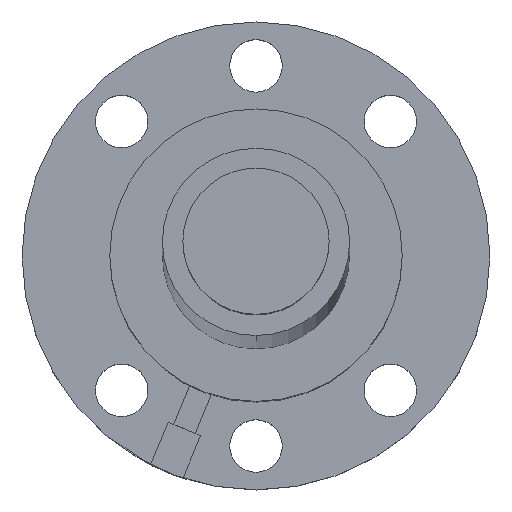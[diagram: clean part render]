
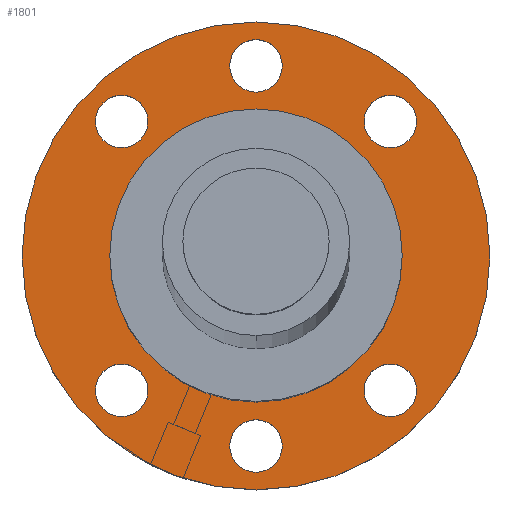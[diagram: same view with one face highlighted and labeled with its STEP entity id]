
A CAD part, top view. The second image highlights one B-rep face of the part: STEP entity #1801.
In plain terms, the highlighted planar face has unit normal (0, 0, 1).
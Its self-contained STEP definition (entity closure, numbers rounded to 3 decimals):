
#1296=CARTESIAN_POINT('',(0.,0.,12.));
#1297=DIRECTION('',(0.,0.,1.));
#1298=DIRECTION('',(1.,0.,0.));
#1299=AXIS2_PLACEMENT_3D('',#1296,#1297,#1298);
#1301=CARTESIAN_POINT('',(0.,0.,12.));
#1302=DIRECTION('',(0.,0.,1.));
#1303=DIRECTION('',(-1.,0.,0.));
#1304=AXIS2_PLACEMENT_3D('',#1301,#1302,#1303);
#1306=CARTESIAN_POINT('',(0.,0.,12.));
#1307=DIRECTION('',(0.,0.,-1.));
#1308=DIRECTION('',(1.,0.,0.));
#1309=AXIS2_PLACEMENT_3D('',#1306,#1307,#1308);
#1311=CARTESIAN_POINT('',(0.,0.,12.));
#1312=DIRECTION('',(0.,0.,-1.));
#1313=DIRECTION('',(-1.,0.,0.));
#1314=AXIS2_PLACEMENT_3D('',#1311,#1312,#1313);
#1316=CARTESIAN_POINT('',(0.,32.5,12.));
#1317=DIRECTION('',(0.,0.,-1.));
#1318=DIRECTION('',(1.,0.,0.));
#1319=AXIS2_PLACEMENT_3D('',#1316,#1317,#1318);
#1321=CARTESIAN_POINT('',(0.,32.5,12.));
#1322=DIRECTION('',(0.,0.,-1.));
#1323=DIRECTION('',(-1.,0.,0.));
#1324=AXIS2_PLACEMENT_3D('',#1321,#1322,#1323);
#1326=CARTESIAN_POINT('',(22.981,22.981,12.));
#1327=DIRECTION('',(0.,0.,-1.));
#1328=DIRECTION('',(-1.,0.,0.));
#1329=AXIS2_PLACEMENT_3D('',#1326,#1327,#1328);
#1331=CARTESIAN_POINT('',(22.981,22.981,12.));
#1332=DIRECTION('',(0.,0.,-1.));
#1333=DIRECTION('',(1.,0.,0.));
#1334=AXIS2_PLACEMENT_3D('',#1331,#1332,#1333);
#1336=CARTESIAN_POINT('',(-22.981,-22.981,12.));
#1337=DIRECTION('',(0.,0.,-1.));
#1338=DIRECTION('',(1.,0.,0.));
#1339=AXIS2_PLACEMENT_3D('',#1336,#1337,#1338);
#1341=CARTESIAN_POINT('',(-22.981,-22.981,12.));
#1342=DIRECTION('',(0.,0.,-1.));
#1343=DIRECTION('',(-1.,0.,0.));
#1344=AXIS2_PLACEMENT_3D('',#1341,#1342,#1343);
#1346=CARTESIAN_POINT('',(-22.981,22.981,12.));
#1347=DIRECTION('',(0.,0.,-1.));
#1348=DIRECTION('',(1.,0.,0.));
#1349=AXIS2_PLACEMENT_3D('',#1346,#1347,#1348);
#1351=CARTESIAN_POINT('',(-22.981,22.981,12.));
#1352=DIRECTION('',(0.,0.,-1.));
#1353=DIRECTION('',(-1.,0.,0.));
#1354=AXIS2_PLACEMENT_3D('',#1351,#1352,#1353);
#1356=CARTESIAN_POINT('',(22.981,-22.981,12.));
#1357=DIRECTION('',(0.,0.,-1.));
#1358=DIRECTION('',(-1.,0.,0.));
#1359=AXIS2_PLACEMENT_3D('',#1356,#1357,#1358);
#1361=CARTESIAN_POINT('',(22.981,-22.981,12.));
#1362=DIRECTION('',(0.,0.,-1.));
#1363=DIRECTION('',(1.,0.,0.));
#1364=AXIS2_PLACEMENT_3D('',#1361,#1362,#1363);
#1366=CARTESIAN_POINT('',(0.,-32.5,12.));
#1367=DIRECTION('',(0.,0.,-1.));
#1368=DIRECTION('',(1.,0.,0.));
#1369=AXIS2_PLACEMENT_3D('',#1366,#1367,#1368);
#1371=CARTESIAN_POINT('',(0.,-32.5,12.));
#1372=DIRECTION('',(0.,0.,-1.));
#1373=DIRECTION('',(-1.,0.,0.));
#1374=AXIS2_PLACEMENT_3D('',#1371,#1372,#1373);
#1546=CARTESIAN_POINT('',(40.,0.,12.));
#1548=VERTEX_POINT('',#1546);
#1550=CARTESIAN_POINT('',(-40.,0.,12.));
#1552=VERTEX_POINT('',#1550);
#1555=CARTESIAN_POINT('',(25.,0.,12.));
#1557=VERTEX_POINT('',#1555);
#1559=CARTESIAN_POINT('',(-25.,0.,12.));
#1561=VERTEX_POINT('',#1559);
#1570=CARTESIAN_POINT('',(27.481,-22.981,12.));
#1572=VERTEX_POINT('',#1570);
#1574=CARTESIAN_POINT('',(18.481,-22.981,12.));
#1576=VERTEX_POINT('',#1574);
#1578=CARTESIAN_POINT('',(-18.481,22.981,12.));
#1580=VERTEX_POINT('',#1578);
#1582=CARTESIAN_POINT('',(-27.481,22.981,12.));
#1584=VERTEX_POINT('',#1582);
#1586=CARTESIAN_POINT('',(-18.481,-22.981,12.));
#1588=VERTEX_POINT('',#1586);
#1590=CARTESIAN_POINT('',(-27.481,-22.981,12.));
#1592=VERTEX_POINT('',#1590);
#1594=CARTESIAN_POINT('',(27.481,22.981,12.));
#1596=VERTEX_POINT('',#1594);
#1598=CARTESIAN_POINT('',(18.481,22.981,12.));
#1600=VERTEX_POINT('',#1598);
#1602=CARTESIAN_POINT('',(4.5,32.5,12.));
#1604=VERTEX_POINT('',#1602);
#1606=CARTESIAN_POINT('',(-4.5,32.5,12.));
#1608=VERTEX_POINT('',#1606);
#1610=CARTESIAN_POINT('',(4.5,-32.5,12.));
#1612=VERTEX_POINT('',#1610);
#1614=CARTESIAN_POINT('',(-4.5,-32.5,12.));
#1616=VERTEX_POINT('',#1614);
#1750=CARTESIAN_POINT('',(0.,10.833,12.));
#1751=DIRECTION('',(0.,0.,1.));
#1752=DIRECTION('',(1.,0.,0.));
#1753=AXIS2_PLACEMENT_3D('',#1750,#1751,#1752);
#1754=PLANE('',#1753);
#1755=ORIENTED_EDGE('',*,*,#1643,.F.);
#1757=ORIENTED_EDGE('',*,*,#1756,.F.);
#1758=EDGE_LOOP('',(#1755,#1757));
#1759=FACE_OUTER_BOUND('',#1758,.F.);
#1761=ORIENTED_EDGE('',*,*,#1760,.F.);
#1762=ORIENTED_EDGE('',*,*,#1740,.F.);
#1763=EDGE_LOOP('',(#1761,#1762));
#1764=FACE_BOUND('',#1763,.F.);
#1766=ORIENTED_EDGE('',*,*,#1765,.F.);
#1768=ORIENTED_EDGE('',*,*,#1767,.F.);
#1769=EDGE_LOOP('',(#1766,#1768));
#1770=FACE_BOUND('',#1769,.F.);
#1772=ORIENTED_EDGE('',*,*,#1771,.F.);
#1774=ORIENTED_EDGE('',*,*,#1773,.F.);
#1775=EDGE_LOOP('',(#1772,#1774));
#1776=FACE_BOUND('',#1775,.F.);
#1778=ORIENTED_EDGE('',*,*,#1777,.F.);
#1780=ORIENTED_EDGE('',*,*,#1779,.F.);
#1781=EDGE_LOOP('',(#1778,#1780));
#1782=FACE_BOUND('',#1781,.F.);
#1784=ORIENTED_EDGE('',*,*,#1783,.F.);
#1786=ORIENTED_EDGE('',*,*,#1785,.F.);
#1787=EDGE_LOOP('',(#1784,#1786));
#1788=FACE_BOUND('',#1787,.F.);
#1790=ORIENTED_EDGE('',*,*,#1789,.F.);
#1792=ORIENTED_EDGE('',*,*,#1791,.F.);
#1793=EDGE_LOOP('',(#1790,#1792));
#1794=FACE_BOUND('',#1793,.F.);
#1796=ORIENTED_EDGE('',*,*,#1795,.F.);
#1798=ORIENTED_EDGE('',*,*,#1797,.F.);
#1799=EDGE_LOOP('',(#1796,#1798));
#1800=FACE_BOUND('',#1799,.F.);
#1801=ADVANCED_FACE('',(#1759,#1764,#1770,#1776,#1782,#1788,#1794,#1800),#1754,
.T.);
#1300=CIRCLE('',#1299,40.);
#1305=CIRCLE('',#1304,40.);
#1310=CIRCLE('',#1309,25.);
#1315=CIRCLE('',#1314,25.);
#1320=CIRCLE('',#1319,4.5);
#1325=CIRCLE('',#1324,4.5);
#1330=CIRCLE('',#1329,4.5);
#1335=CIRCLE('',#1334,4.5);
#1340=CIRCLE('',#1339,4.5);
#1345=CIRCLE('',#1344,4.5);
#1350=CIRCLE('',#1349,4.5);
#1355=CIRCLE('',#1354,4.5);
#1360=CIRCLE('',#1359,4.5);
#1365=CIRCLE('',#1364,4.5);
#1370=CIRCLE('',#1369,4.5);
#1375=CIRCLE('',#1374,4.5);
#1643=EDGE_CURVE('',#1548,#1552,#1300,.T.);
#1740=EDGE_CURVE('',#1561,#1557,#1315,.T.);
#1756=EDGE_CURVE('',#1552,#1548,#1305,.T.);
#1760=EDGE_CURVE('',#1557,#1561,#1310,.T.);
#1765=EDGE_CURVE('',#1604,#1608,#1320,.T.);
#1767=EDGE_CURVE('',#1608,#1604,#1325,.T.);
#1771=EDGE_CURVE('',#1600,#1596,#1330,.T.);
#1773=EDGE_CURVE('',#1596,#1600,#1335,.T.);
#1777=EDGE_CURVE('',#1588,#1592,#1340,.T.);
#1779=EDGE_CURVE('',#1592,#1588,#1345,.T.);
#1783=EDGE_CURVE('',#1580,#1584,#1350,.T.);
#1785=EDGE_CURVE('',#1584,#1580,#1355,.T.);
#1789=EDGE_CURVE('',#1576,#1572,#1360,.T.);
#1791=EDGE_CURVE('',#1572,#1576,#1365,.T.);
#1795=EDGE_CURVE('',#1612,#1616,#1370,.T.);
#1797=EDGE_CURVE('',#1616,#1612,#1375,.T.);
